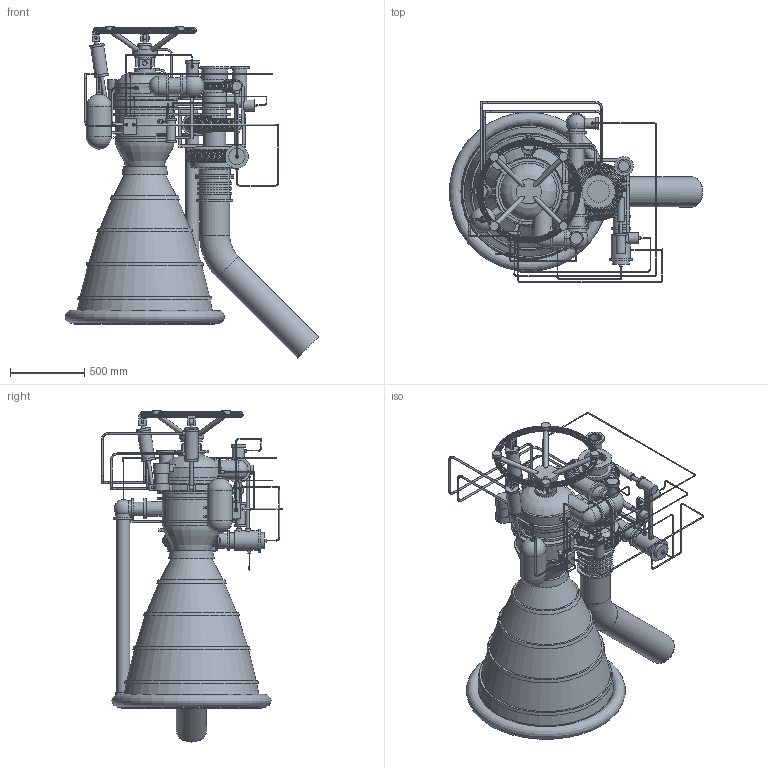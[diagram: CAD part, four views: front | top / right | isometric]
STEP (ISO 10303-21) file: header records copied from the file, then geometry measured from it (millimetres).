
FILE_DESCRIPTION(('Open CASCADE Model'),'2;1');
FILE_NAME('Open CASCADE Shape Model','2026-10-12T18:45:19',('Author'),( 'Open CASCADE'),'Open CASCADE STEP processor 7.6','kernelCAD 0.17.0 (https://kernelcad.com)','Unknown');
FILE_SCHEMA(('AUTOMOTIVE_DESIGN { 1 0 10303 214 1 1 1 1 }'));
Length unit declared in the file: millimetre
Products named in the file (42): chamber; coolant-manifold; injector-dome; gimbal-mount; thrust-frame; turbopump; turbine-exhaust-collar; gas-generator; pump-mount; main-lox-valve; main-fuel-valve; gg-valve; tvc-actuator-1; tvc-actuator-2; igniter-cartridge; helium-bottle; pneumatic-block; main-valve-support; generator-valve-support; lox-pump-main; lox-main-dome; lox-pump-gg; lox-gg-generator; fuel-pump-main; fuel-main-manifold; fuel-coolant-dome; fuel-pump-gg; fuel-gg-generator; fuel-act1-supply; fuel-act1-return; fuel-act2-supply; fuel-act2-return; hotgas-generator-turbine; hotgas-exhaust; igniter-chamber; igniter-generator; pneumatic-helium-block; pneumatic-main-lox; pneumatic-main-fuel; pneumatic-gg-valve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
Bounding box: 1708.01 x 1219.5 x 2236.84 mm (x, y, z)
Volume: 156175812.4 mm3; surface area: 15186700.8 mm2
Topology: 42 solids, 42 shells, 1560 faces, 3729 edges, 2335 vertices
Faces by surface type: cone 560, plane 555, cylinder 330, torus 96, sphere 10, revolution 9
Full cylindrical faces by diameter (mm): 4.93 x38, 6.35 x38, 7.745 x5, 9.525 x5, 10.92 x16, 12.7 x16, 16 x10, 16.57 x2, 18 x16, 19.05 x2, 20 x2, 22 x10, 22.92 x2, 24 x4, 25.4 x2, 28 x1, 30 x10, 32 x5, 34 x2, 36 x3, 44 x2, 60 x4, 64 x3, 68 x1, 72 x1, 74 x2, 76 x1, 80 x4, 85.6 x3, 88 x2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
Entity records: 112805 total; most frequent: CARTESIAN_POINT 36764, DIRECTION 14317, ORIENTED_EDGE 7424, PCURVE 7424, DEFINITIONAL_REPRESENTATION 7424, LINE 7230, VECTOR 7230, EDGE_CURVE 3712
